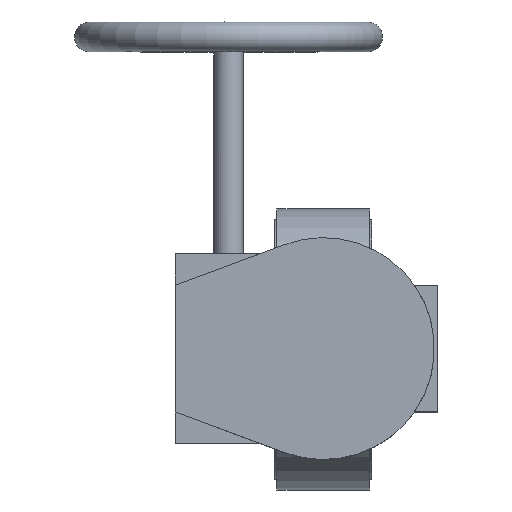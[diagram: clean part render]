
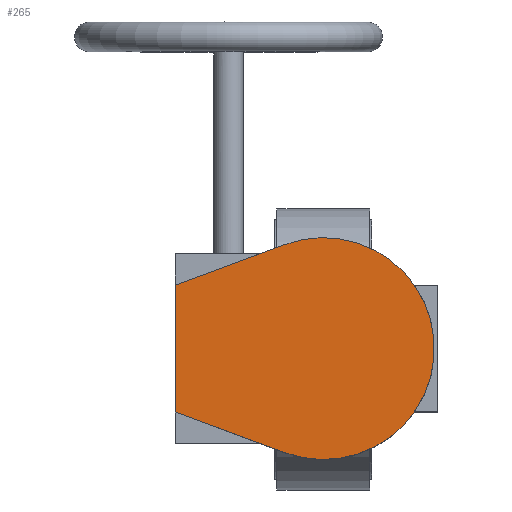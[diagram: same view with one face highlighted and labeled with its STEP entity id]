
A CAD part, top view. The second image highlights one B-rep face of the part: STEP entity #265.
In plain terms, the highlighted planar face has unit normal (0, 0, 1).
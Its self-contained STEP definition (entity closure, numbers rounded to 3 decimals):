
#265=ADVANCED_FACE('',(#6381),#6383,.T.);
#6381=FACE_BOUND('',#6382,.T.);
#6382=EDGE_LOOP('',(#11248,#11249,#11250,#11251));
#6383=PLANE('',#6384);
#6384=AXIS2_PLACEMENT_3D('',#6385,#6386,#6387);
#6385=CARTESIAN_POINT('',(0.,0.,246.));
#6386=DIRECTION('',(0.,0.,1.));
#6387=DIRECTION('',(0.,1.,0.));
#11248=ORIENTED_EDGE('',*,*,#15034,.T.);
#11249=ORIENTED_EDGE('',*,*,#15030,.T.);
#11250=ORIENTED_EDGE('',*,*,#15023,.T.);
#11251=ORIENTED_EDGE('',*,*,#15018,.T.);
#15018=EDGE_CURVE('',#16994,#16992,#16995,.T.);
#15023=EDGE_CURVE('',#17002,#16994,#17003,.T.);
#15030=EDGE_CURVE('',#17015,#17002,#17016,.T.);
#15034=EDGE_CURVE('',#16992,#17015,#17021,.T.);
#16992=VERTEX_POINT('',#20287);
#16994=VERTEX_POINT('',#20291);
#16995=LINE('',#20292,#20293);
#17002=VERTEX_POINT('',#20309);
#17003=LINE('',#20310,#20311);
#17015=VERTEX_POINT('',#20336);
#17016=LINE('',#20337,#20338);
#17021=CIRCLE('',#20350,52.5);
#20287=CARTESIAN_POINT('',(-18.284,-49.213,246.));
#20291=CARTESIAN_POINT('',(-70.,-30.,246.));
#20292=CARTESIAN_POINT('',(-70.,-30.,246.));
#20293=VECTOR('',#20294,1.);
#20294=DIRECTION('',(0.937,-0.348,0.));
#20309=CARTESIAN_POINT('',(-70.,30.,246.));
#20310=CARTESIAN_POINT('',(-70.,30.,246.));
#20311=VECTOR('',#20312,1.);
#20312=DIRECTION('',(0.,-1.,0.));
#20336=CARTESIAN_POINT('',(-18.284,49.213,246.));
#20337=CARTESIAN_POINT('',(-18.284,49.213,246.));
#20338=VECTOR('',#20339,1.);
#20339=DIRECTION('',(-0.937,-0.348,0.));
#20350=AXIS2_PLACEMENT_3D('',#20351,#20352,#20353);
#20351=CARTESIAN_POINT('',(0.,0.,246.));
#20352=DIRECTION('',(0.,0.,1.));
#20353=DIRECTION('',(-0.348,-0.937,0.));
